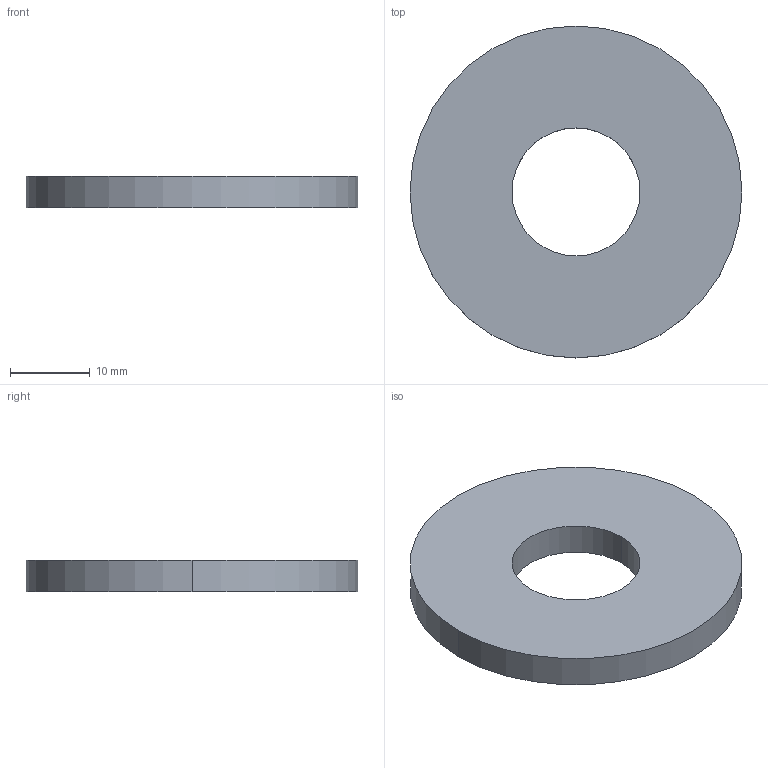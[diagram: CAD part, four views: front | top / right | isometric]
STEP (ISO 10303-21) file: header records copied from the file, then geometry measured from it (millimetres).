
FILE_DESCRIPTION (( 'STEP AP214' ), '1' );
FILE_NAME ('Distanzscheibe.STEP', '2016-12-28T08:46:52', ( '' ), ( '' ), 'SwSTEP 2.0', 'SolidWorks 2016', '' );
FILE_SCHEMA (( 'AUTOMOTIVE_DESIGN' ));
Length unit declared in the file: millimetre
Products named in the file (1): Distanzscheibe
Bounding box: 41.5 x 41.5 x 4 mm (x, y, z)
Volume: 4606.4 mm3; surface area: 3025.7 mm2
Topology: 1 solids, 1 shells, 6 faces, 12 edges, 8 vertices
Faces by surface type: cylinder 4, plane 2
Entity records: 202 total; most frequent: DIRECTION 34, CARTESIAN_POINT 27, ORIENTED_EDGE 24, AXIS2_PLACEMENT_3D 15, EDGE_CURVE 12, EDGE_LOOP 8, VERTEX_POINT 8, CIRCLE 8
